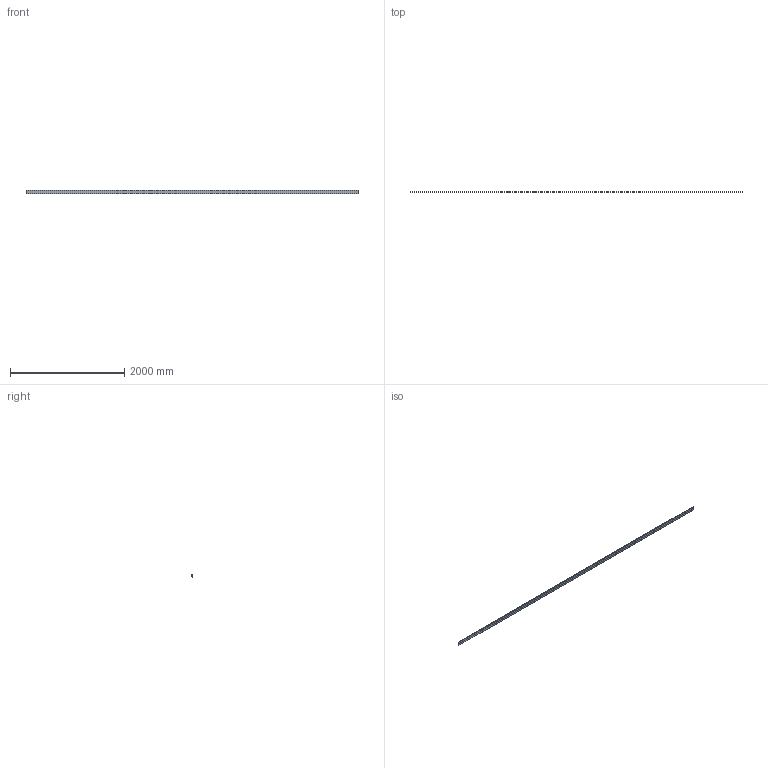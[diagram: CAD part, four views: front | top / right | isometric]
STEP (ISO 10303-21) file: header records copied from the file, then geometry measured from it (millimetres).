
FILE_DESCRIPTION(('STEP AP242'),'1');
FILE_NAME('OPO_65.082.04_volu_schn_3d.stp','2026-01-30T20:52:39',(' '),(' '),'Spatial InterOp 3D',' ',' ');
FILE_SCHEMA(('AP242_MANAGED_MODEL_BASED_3D_ENGINEERING_MIM_LF {1 0 10303 442 1 1 4}'));
Length unit declared in the file: millimetre
Products named in the file (1): 1
Bounding box: 5800 x 15.5 x 65 mm (x, y, z)
Volume: 568400 mm3; surface area: 1148596 mm2
Topology: 1 solids, 1 shells, 60 faces, 294 edges, 374 vertices
Faces by surface type: plane 40, cylinder 20
Entity records: 3999 total; most frequent: DIRECTION 478, CARTESIAN_POINT 462, ORIENTED_EDGE 320, LINE 234, VECTOR 234, STYLED_ITEM 194, PRESENTATION_STYLE_ASSIGNMENT 194, COLOUR_RGB 194
